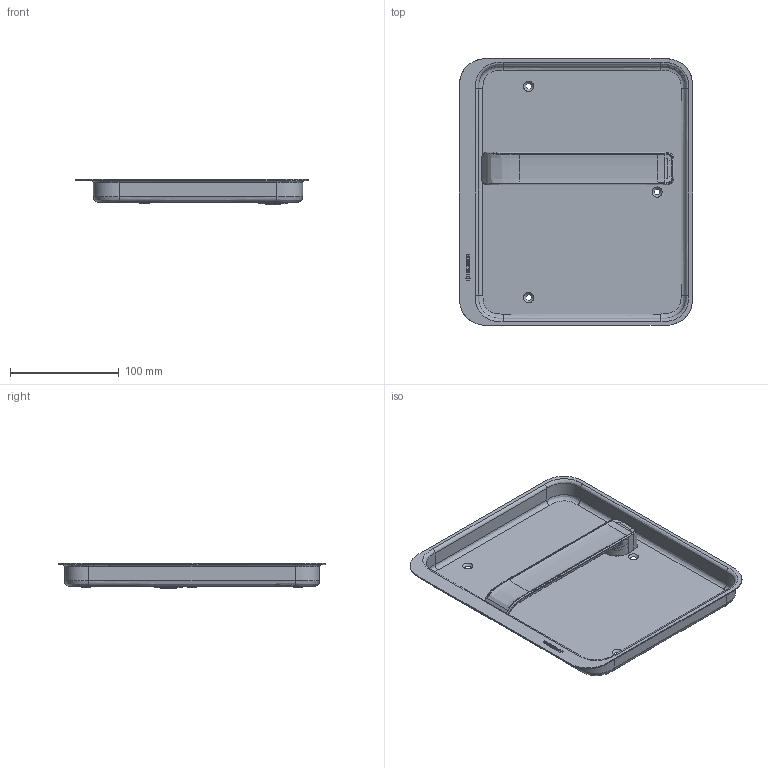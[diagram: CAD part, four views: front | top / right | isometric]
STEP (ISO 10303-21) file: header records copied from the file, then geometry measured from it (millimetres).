
FILE_DESCRIPTION(/* description */ (''),/* implementation_level */ '2;1');
FILE_NAME(/* name */ 'C:\ADSK_DMS_WS\Designs\Vorschläge\Loc Schalen\Muschel Serie 9\S9.20.D3Links\Heusser-Muschel S9.20.D3.0L.stp',/* time_stamp */ '2020-10-13T15:41:27+02:00',/* author */ ('gm'),/* organization */ (''),/* preprocessor_version */ 'ST-DEVELOPER v16.5',/* originating_system */ 'Autodesk Inventor 2017',/* authorisation */ '');
FILE_SCHEMA (('AUTOMOTIVE_DESIGN { 1 0 10303 214 3 1 1 }'));
Length unit declared in the file: millimetre
Products named in the file (1): S9.20.D3.0L
Bounding box: 214 x 245 x 23 mm (x, y, z)
Volume: 101656.6 mm3; surface area: 149174.4 mm2
Topology: 1 solids, 2 shells, 327 faces, 843 edges, 546 vertices
Faces by surface type: bspline 160, plane 131, cylinder 20, cone 16
Full cylindrical faces by diameter (mm): 1.7 x2, 14.2 x1, 16 x3, 18 x1, 19 x1, 19.1 x1, 23 x1, 23.2 x1, 24 x1, 25 x1, 26 x1, 28 x1
Entity records: 18319 total; most frequent: CARTESIAN_POINT 11071, ORIENTED_EDGE 1612, DIRECTION 953, EDGE_CURVE 806, VERTEX_POINT 540, LINE 411, VECTOR 411, EDGE_LOOP 402
